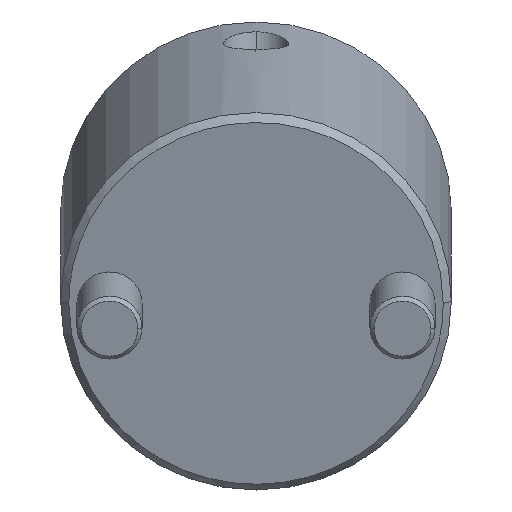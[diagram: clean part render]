
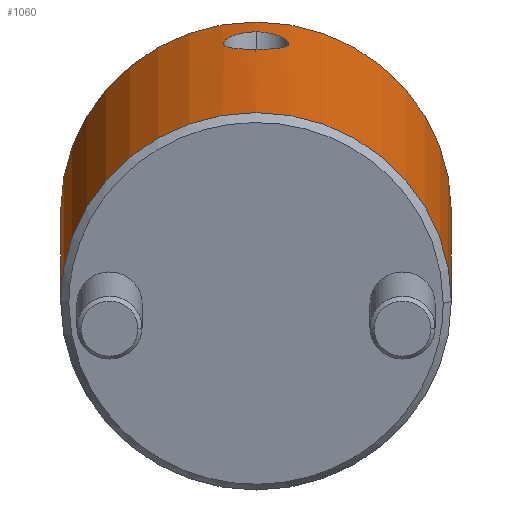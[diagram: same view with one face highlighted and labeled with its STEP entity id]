
A CAD part, front view. The second image highlights one B-rep face of the part: STEP entity #1060.
In plain terms, the highlighted cylindrical face has radius 24 mm (diameter 48 mm), a partial arc.
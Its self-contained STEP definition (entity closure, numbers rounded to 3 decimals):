
#802=CARTESIAN_POINT('Vertex',(0.,24.,1.)) ;
#805=CARTESIAN_POINT('Axis2P3D Location',(0.,0.,1.)) ;
#809=CARTESIAN_POINT('Vertex',(0.,-24.,1.)) ;
#961=CARTESIAN_POINT('Axis2P3D Location',(0.,0.,-2.25)) ;
#966=CARTESIAN_POINT('Line Origine',(0.,24.,-2.25)) ;
#970=CARTESIAN_POINT('Vertex',(0.,24.,44.)) ;
#973=CARTESIAN_POINT('Axis2P3D Location',(0.,0.,44.)) ;
#977=CARTESIAN_POINT('Vertex',(0.,-24.,44.)) ;
#980=CARTESIAN_POINT('Line Origine',(0.,-24.,-2.25)) ;
#992=CARTESIAN_POINT('Control Point',(24.,0.,39.312)) ;
#993=CARTESIAN_POINT('Control Point',(24.,0.381,39.312)) ;
#994=CARTESIAN_POINT('Control Point',(23.992,0.757,39.263)) ;
#995=CARTESIAN_POINT('Control Point',(23.978,1.125,39.167)) ;
#996=CARTESIAN_POINT('Control Point',(23.946,1.656,38.956)) ;
#997=CARTESIAN_POINT('Control Point',(23.905,2.142,38.651)) ;
#998=CARTESIAN_POINT('Control Point',(23.89,2.302,38.536)) ;
#999=CARTESIAN_POINT('Control Point',(23.859,2.608,38.288)) ;
#1000=CARTESIAN_POINT('Control Point',(23.826,2.886,38.002)) ;
#1001=CARTESIAN_POINT('Control Point',(23.81,3.019,37.847)) ;
#1002=CARTESIAN_POINT('Control Point',(23.778,3.265,37.525)) ;
#1003=CARTESIAN_POINT('Control Point',(23.748,3.472,37.174)) ;
#1004=CARTESIAN_POINT('Control Point',(23.734,3.565,36.993)) ;
#1005=CARTESIAN_POINT('Control Point',(23.709,3.731,36.621)) ;
#1006=CARTESIAN_POINT('Control Point',(23.689,3.851,36.232)) ;
#1007=CARTESIAN_POINT('Control Point',(23.681,3.901,36.035)) ;
#1008=CARTESIAN_POINT('Control Point',(23.668,3.976,35.638)) ;
#1009=CARTESIAN_POINT('Control Point',(23.664,4.004,35.232)) ;
#1010=CARTESIAN_POINT('Control Point',(23.663,4.007,35.033)) ;
#1011=CARTESIAN_POINT('Control Point',(23.669,3.974,34.33)) ;
#1012=CARTESIAN_POINT('Control Point',(23.698,3.799,33.653)) ;
#1013=CARTESIAN_POINT('Control Point',(23.73,3.604,33.199)) ;
#1014=CARTESIAN_POINT('Control Point',(23.799,3.136,32.447)) ;
#1015=CARTESIAN_POINT('Control Point',(23.874,2.484,31.853)) ;
#1016=CARTESIAN_POINT('Control Point',(23.906,2.162,31.627)) ;
#1017=CARTESIAN_POINT('Control Point',(23.955,1.553,31.301)) ;
#1018=CARTESIAN_POINT('Control Point',(23.986,0.889,31.112)) ;
#1019=CARTESIAN_POINT('Control Point',(23.995,0.595,31.057)) ;
#1020=CARTESIAN_POINT('Control Point',(24.,0.299,31.03)) ;
#1021=CARTESIAN_POINT('Control Point',(24.,0.,31.03)) ;
#1022=CARTESIAN_POINT('Vertex',(24.,0.,39.312)) ;
#1024=CARTESIAN_POINT('Vertex',(24.,0.,31.03)) ;
#1028=CARTESIAN_POINT('Control Point',(24.,0.,31.03)) ;
#1029=CARTESIAN_POINT('Control Point',(24.,-0.49,31.03)) ;
#1030=CARTESIAN_POINT('Control Point',(23.988,-0.973,31.103)) ;
#1031=CARTESIAN_POINT('Control Point',(23.963,-1.449,31.251)) ;
#1032=CARTESIAN_POINT('Control Point',(23.902,-2.245,31.642)) ;
#1033=CARTESIAN_POINT('Control Point',(23.826,-2.902,32.232)) ;
#1034=CARTESIAN_POINT('Control Point',(23.793,-3.16,32.529)) ;
#1035=CARTESIAN_POINT('Control Point',(23.731,-3.596,33.178)) ;
#1036=CARTESIAN_POINT('Control Point',(23.687,-3.866,33.919)) ;
#1037=CARTESIAN_POINT('Control Point',(23.671,-3.958,34.308)) ;
#1038=CARTESIAN_POINT('Control Point',(23.656,-4.048,35.113)) ;
#1039=CARTESIAN_POINT('Control Point',(23.673,-3.946,35.921)) ;
#1040=CARTESIAN_POINT('Control Point',(23.69,-3.849,36.316)) ;
#1041=CARTESIAN_POINT('Control Point',(23.724,-3.637,36.89)) ;
#1042=CARTESIAN_POINT('Control Point',(23.768,-3.329,37.417)) ;
#1043=CARTESIAN_POINT('Control Point',(23.784,-3.217,37.586)) ;
#1044=CARTESIAN_POINT('Control Point',(23.816,-2.973,37.91)) ;
#1045=CARTESIAN_POINT('Control Point',(23.849,-2.696,38.2)) ;
#1046=CARTESIAN_POINT('Control Point',(23.865,-2.55,38.334)) ;
#1047=CARTESIAN_POINT('Control Point',(23.896,-2.246,38.584)) ;
#1048=CARTESIAN_POINT('Control Point',(23.924,-1.917,38.793)) ;
#1049=CARTESIAN_POINT('Control Point',(23.937,-1.747,38.887)) ;
#1050=CARTESIAN_POINT('Control Point',(23.967,-1.315,39.092)) ;
#1051=CARTESIAN_POINT('Control Point',(23.987,-0.856,39.228)) ;
#1052=CARTESIAN_POINT('Control Point',(23.996,-0.575,39.284)) ;
#1053=CARTESIAN_POINT('Control Point',(24.,-0.289,39.312)) ;
#1054=CARTESIAN_POINT('Control Point',(24.,0.,39.312)) ;
#806=DIRECTION('Axis2P3D Direction',(0.,0.,1.)) ;
#962=DIRECTION('Axis2P3D Direction',(0.,-0.,1.)) ;
#963=DIRECTION('Axis2P3D XDirection',(0.,-1.,0.)) ;
#967=DIRECTION('Vector Direction',(0.,0.,1.)) ;
#974=DIRECTION('Axis2P3D Direction',(0.,-0.,1.)) ;
#981=DIRECTION('Vector Direction',(0.,0.,1.)) ;
#807=AXIS2_PLACEMENT_3D('Circle Axis2P3D',#805,#806,$) ;
#964=AXIS2_PLACEMENT_3D('Cylinder Axis2P3D',#961,#962,#963) ;
#975=AXIS2_PLACEMENT_3D('Circle Axis2P3D',#973,#974,$) ;
#986=ORIENTED_EDGE('',*,*,#972,.F.) ;
#987=ORIENTED_EDGE('',*,*,#979,.T.) ;
#988=ORIENTED_EDGE('',*,*,#984,.T.) ;
#989=ORIENTED_EDGE('',*,*,#811,.F.) ;
#1057=ORIENTED_EDGE('',*,*,#1026,.T.) ;
#1058=ORIENTED_EDGE('',*,*,#1055,.T.) ;
#1059=FACE_BOUND('',#1056,.T.) ;
#968=VECTOR('Line Direction',#967,1.) ;
#982=VECTOR('Line Direction',#981,1.) ;
#1060=ADVANCED_FACE('MANIFOLD_SOLID_BREP #1138',(#990,#1059),#965,.T.) ;
#991=B_SPLINE_CURVE_WITH_KNOTS('',5,(#992,#993,#994,#995,#996,#997,#998,#999,#1000,#1001,#1002,#1003,#1004,#1005,#1006,#1007,#1008,#1009,#1010,#1011,#1012,#1013,#1014,#1015,#1016,#1017,#1018,#1019,#1020,#1021),.UNSPECIFIED.,.F.,.U.,(6,3,3,3,3,3,3,3,3,6),(0.,2.718,4.117,5.519,6.933,8.345,9.737,13.219,16.005,18.128),.UNSPECIFIED.) ;
#1027=B_SPLINE_CURVE_WITH_KNOTS('',5,(#1028,#1029,#1030,#1031,#1032,#1033,#1034,#1035,#1036,#1037,#1038,#1039,#1040,#1041,#1042,#1043,#1044,#1045,#1046,#1047,#1048,#1049,#1050,#1051,#1052,#1053,#1054),.UNSPECIFIED.,.F.,.U.,(6,3,3,3,3,3,3,3,6),(0.,3.484,6.273,9.048,11.861,13.272,14.676,16.068,18.126),.UNSPECIFIED.) ;
#808=CIRCLE('generated circle',#807,24.) ;
#976=CIRCLE('generated circle',#975,24.) ;
#965=CYLINDRICAL_SURFACE('generated cylinder',#964,24.) ;
#811=EDGE_CURVE('',#803,#810,#808,.F.) ;
#972=EDGE_CURVE('',#971,#803,#969,.F.) ;
#979=EDGE_CURVE('',#971,#978,#976,.F.) ;
#984=EDGE_CURVE('',#978,#810,#983,.F.) ;
#1026=EDGE_CURVE('',#1023,#1025,#991,.T.) ;
#1055=EDGE_CURVE('',#1025,#1023,#1027,.T.) ;
#985=EDGE_LOOP('',(#986,#987,#988,#989)) ;
#1056=EDGE_LOOP('',(#1057,#1058)) ;
#990=FACE_OUTER_BOUND('',#985,.T.) ;
#969=LINE('Line',#966,#968) ;
#983=LINE('Line',#980,#982) ;
#803=VERTEX_POINT('',#802) ;
#810=VERTEX_POINT('',#809) ;
#971=VERTEX_POINT('',#970) ;
#978=VERTEX_POINT('',#977) ;
#1023=VERTEX_POINT('',#1022) ;
#1025=VERTEX_POINT('',#1024) ;
